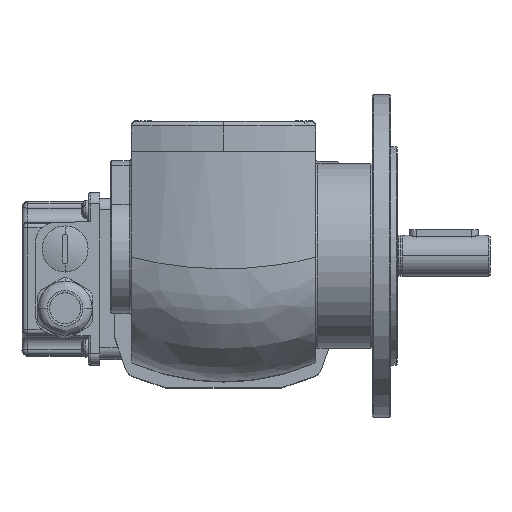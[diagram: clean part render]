
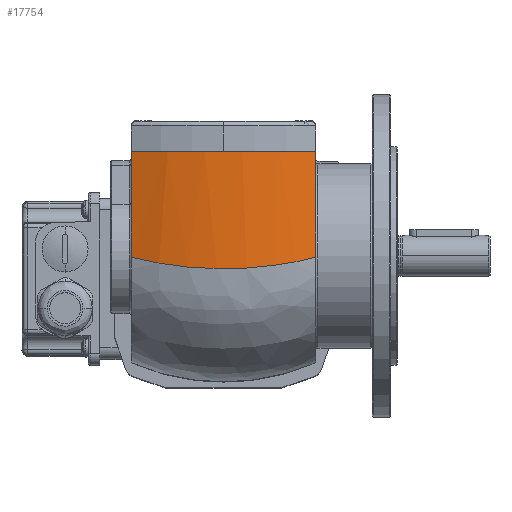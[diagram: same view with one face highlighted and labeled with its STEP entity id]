
A CAD part, top view. The second image highlights one B-rep face of the part: STEP entity #17754.
In plain terms, the highlighted cylindrical face has radius 109 mm (diameter 218 mm), a partial arc.
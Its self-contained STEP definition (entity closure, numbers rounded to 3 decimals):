
#161 = CARTESIAN_POINT ( 'NONE',  ( -45.4, 119.395, 0. ) ) ;
#2147 = DIRECTION ( 'NONE',  ( 0., 0., 1. ) ) ;
#2179 = LINE ( 'NONE', #20922, #25792 ) ;
#2284 = AXIS2_PLACEMENT_3D ( 'NONE', #28264, #2614, #2147 ) ;
#2289 = B_SPLINE_CURVE_WITH_KNOTS ( 'NONE', 3,
 ( #7883, #2814, #21992, #24467, #10171, #19672, #29053, #17060, #8017, #3416, #8169, #17358, #12181, #9870, #19224, #5263, #19523, #7569, #16915, #26312, #24022, #2976, #21690, #28906, #10013, #19378 ),
 .UNSPECIFIED., .F., .F.,
 ( 4, 2, 2, 2, 2, 2, 2, 2, 2, 2, 2, 2, 4 ),
 ( 0., 0.01, 0.016, 0.021, 0.031, 0.036, 0.041, 0.052, 0.062, 0.065, 0.067, 0.073, 0.083 ),
 .UNSPECIFIED. ) ;
#2473 = CYLINDRICAL_SURFACE ( 'NONE', #2284, 109. ) ;
#2614 = DIRECTION ( 'NONE',  ( -1., 0., 0. ) ) ;
#2814 = CARTESIAN_POINT ( 'NONE',  ( 1.427, 120.63, 76.871 ) ) ;
#2976 = CARTESIAN_POINT ( 'NONE',  ( 3.37, 123.577, 12.846 ) ) ;
#3273 = CARTESIAN_POINT ( 'NONE',  ( 0.602, 119.395, 0. ) ) ;
#3416 = CARTESIAN_POINT ( 'NONE',  ( 5.388, 126.672, 48.617 ) ) ;
#5263 = CARTESIAN_POINT ( 'NONE',  ( 5.074, 126.189, 26.289 ) ) ;
#6938 = LINE ( 'NONE', #13376, #18374 ) ;
#7569 = CARTESIAN_POINT ( 'NONE',  ( 4.234, 124.899, 18.685 ) ) ;
#7883 = CARTESIAN_POINT ( 'NONE',  ( 0.602, 119.395, 80. ) ) ;
#8017 = CARTESIAN_POINT ( 'NONE',  ( 5.072, 126.185, 53.737 ) ) ;
#8169 = CARTESIAN_POINT ( 'NONE',  ( 5.467, 126.795, 46.902 ) ) ;
#9036 = ORIENTED_EDGE ( 'NONE', *, *, #13837, .T. ) ;
#9079 = DIRECTION ( 'NONE',  ( -1., 0., 0. ) ) ;
#9870 = CARTESIAN_POINT ( 'NONE',  ( 5.6, 127., 36.543 ) ) ;
#10013 = CARTESIAN_POINT ( 'NONE',  ( 1.427, 120.63, 3.129 ) ) ;
#10171 = CARTESIAN_POINT ( 'NONE',  ( 3.376, 123.586, 67.119 ) ) ;
#11400 = CARTESIAN_POINT ( 'NONE',  ( -45.4, 119.395, 80. ) ) ;
#12181 = CARTESIAN_POINT ( 'NONE',  ( 5.6, 127., 41.721 ) ) ;
#13376 = CARTESIAN_POINT ( 'NONE',  ( 54.6, 119.395, 80. ) ) ;
#13837 = EDGE_CURVE ( 'NONE', #21057, #23223, #2179, .T. ) ;
#14148 = CARTESIAN_POINT ( 'NONE',  ( 0.602, 119.395, 80. ) ) ;
#16772 = DIRECTION ( 'NONE',  ( 0., 0., 1. ) ) ;
#16840 = EDGE_LOOP ( 'NONE', ( #19718, #17308, #9036, #23535 ) ) ;
#16915 = CARTESIAN_POINT ( 'NONE',  ( 4.122, 124.728, 17.843 ) ) ;
#17060 = CARTESIAN_POINT ( 'NONE',  ( 4.758, 125.702, 57.117 ) ) ;
#17308 = ORIENTED_EDGE ( 'NONE', *, *, #18328, .T. ) ;
#17358 = CARTESIAN_POINT ( 'NONE',  ( 5.573, 126.959, 43.456 ) ) ;
#17754 = ADVANCED_FACE ( 'NONE', ( #30266 ), #2473, .T. ) ;
#18328 = EDGE_CURVE ( 'NONE', #24678, #21057, #2289, .T. ) ;
#18374 = VECTOR ( 'NONE', #9079, 1000. ) ;
#18614 = DIRECTION ( 'NONE',  ( -1., 0., 0. ) ) ;
#19224 = CARTESIAN_POINT ( 'NONE',  ( 5.494, 126.836, 33.111 ) ) ;
#19378 = CARTESIAN_POINT ( 'NONE',  ( 0.602, 119.395, 0. ) ) ;
#19523 = CARTESIAN_POINT ( 'NONE',  ( 4.76, 125.705, 22.898 ) ) ;
#19672 = CARTESIAN_POINT ( 'NONE',  ( 3.897, 124.383, 63.804 ) ) ;
#19718 = ORIENTED_EDGE ( 'NONE', *, *, #21184, .F. ) ;
#20922 = CARTESIAN_POINT ( 'NONE',  ( 54.6, 119.395, 0. ) ) ;
#21057 = VERTEX_POINT ( 'NONE', #3273 ) ;
#21184 = EDGE_CURVE ( 'NONE', #24678, #29476, #6938, .T. ) ;
#21690 = CARTESIAN_POINT ( 'NONE',  ( 3.083, 123.141, 11.203 ) ) ;
#21992 = CARTESIAN_POINT ( 'NONE',  ( 2.151, 121.724, 73.673 ) ) ;
#22779 = CARTESIAN_POINT ( 'NONE',  ( -45.4, 18., 40. ) ) ;
#23223 = VERTEX_POINT ( 'NONE', #161 ) ;
#23535 = ORIENTED_EDGE ( 'NONE', *, *, #24261, .T. ) ;
#24022 = CARTESIAN_POINT ( 'NONE',  ( 3.762, 124.176, 15.335 ) ) ;
#24261 = EDGE_CURVE ( 'NONE', #23223, #29476, #25210, .T. ) ;
#24467 = CARTESIAN_POINT ( 'NONE',  ( 3.088, 123.148, 68.771 ) ) ;
#24678 = VERTEX_POINT ( 'NONE', #14148 ) ;
#25210 = CIRCLE ( 'NONE', #27656, 109. ) ;
#25792 = VECTOR ( 'NONE', #18614, 1000. ) ;
#26312 = CARTESIAN_POINT ( 'NONE',  ( 3.886, 124.366, 16.168 ) ) ;
#27656 = AXIS2_PLACEMENT_3D ( 'NONE', #22779, #29986, #16772 ) ;
#28264 = CARTESIAN_POINT ( 'NONE',  ( 54.6, 18., 40. ) ) ;
#28906 = CARTESIAN_POINT ( 'NONE',  ( 2.149, 121.722, 6.321 ) ) ;
#29053 = CARTESIAN_POINT ( 'NONE',  ( 4.132, 124.742, 62.139 ) ) ;
#29476 = VERTEX_POINT ( 'NONE', #11400 ) ;
#29986 = DIRECTION ( 'NONE',  ( 1., 0., 0. ) ) ;
#30266 = FACE_OUTER_BOUND ( 'NONE', #16840, .T. ) ;
